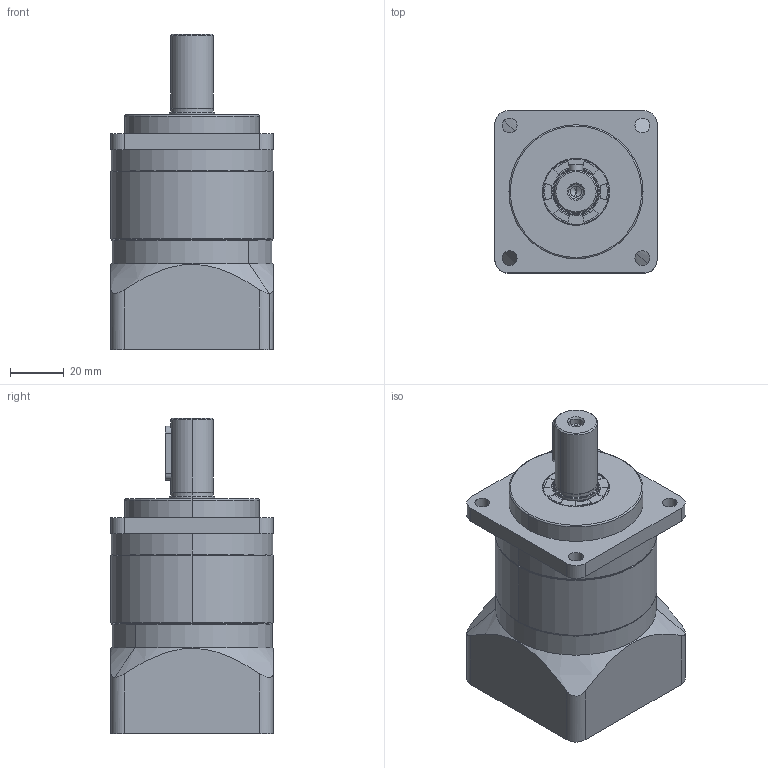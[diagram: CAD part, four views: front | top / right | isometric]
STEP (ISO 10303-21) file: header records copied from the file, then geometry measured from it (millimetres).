
FILE_DESCRIPTION (( 'STEP AP203' ), '1' );
FILE_NAME ('SA60-L1(8-30-45-M3).STEP', '2022-03-11T18:28:18', ( '' ), ( '' ), 'SwSTEP 2.0', 'SolidWorks 2016', '' );
FILE_SCHEMA (( 'CONFIG_CONTROL_DESIGN' ));
Length unit declared in the file: millimetre
Products named in the file (9): SA60-(50x7-70-5.5)-; SN60-(30-45-M3); SN60-(14); 60-(o14-8x17); SN60-34x20x10.5-M5; SN60-(16x29-5x20); SN60; SN60-17x25x4; SA60-L1(8-30-45-M3)
Assembly tree (8 placements, depth 2):
  SA60-L1(8-30-45-M3)
    SA60-(50x7-70-5.5)-
    SN60-17x25x4
    SN60-(16x29-5x20)
    SN60
    SN60-(30-45-M3)
    SN60-(14)
    SN60-34x20x10.5-M5
    60-(o14-8x17)
Bounding box: 60.5 x 60.5 x 117.6 mm (x, y, z)
Volume: 260114.8 mm3; surface area: 65760.4 mm2
Topology: 11 solids, 11 shells, 426 faces, 1072 edges, 678 vertices
Faces by surface type: cylinder 215, plane 110, cone 54, bspline 39, torus 8
Entity records: 32252 total; most frequent: CARTESIAN_POINT 21626, ORIENTED_EDGE 2108, DIRECTION 1946, EDGE_CURVE 1054, AXIS2_PLACEMENT_3D 765, VERTEX_POINT 678, EDGE_LOOP 496, ADVANCED_FACE 426
